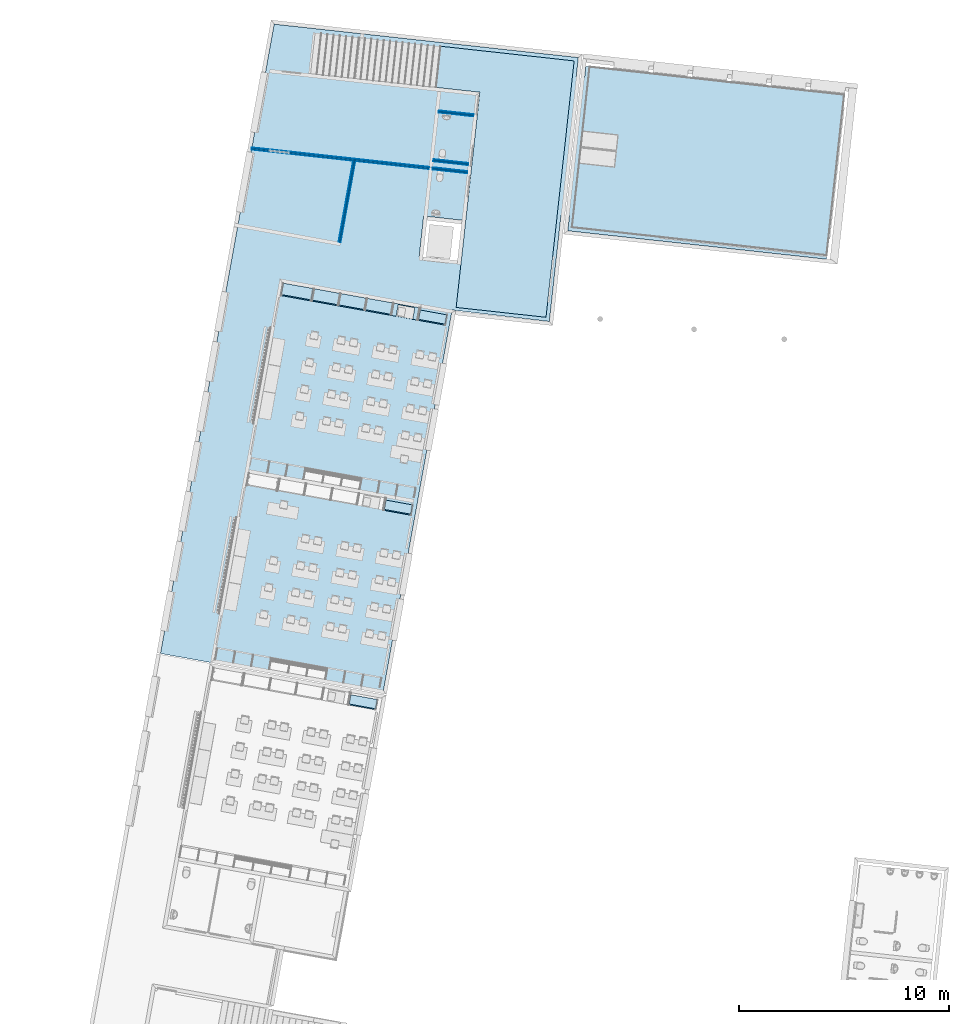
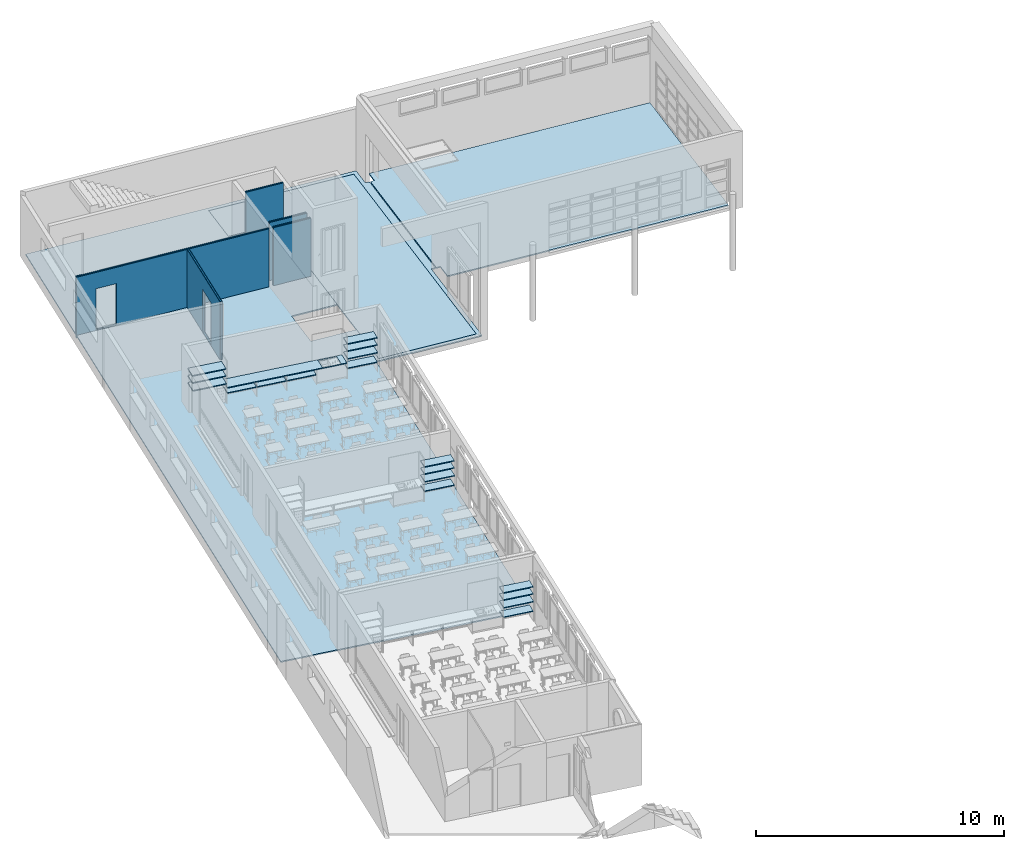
# One storey, part 2 of 79: 22 slabs, 15 building element parts, 4 openings, 5 elements without a shape of their own.
"""IFC2X3 building model written with IfcOpenShell, lengths in metres."""

from ifc_helpers import new_model, entity, si_unit, converted_unit, derived_unit, money_unit, direction, frame, origin_with_axes, origin_2d_with_axis, place, context, subcontext, project, spatial, polyline, rectangle, outline, extrude, material, layer, layer_set, layer_usage, type_object, element, aggregate, save


model = new_model("IFC2X3")

# Units and contexts
model_context = context("Model", 3, precision=1e-05, world=origin_with_axes(), true_north=direction((0.0, 1.0)))
body_context = subcontext(model_context, "Body", "Model", "MODEL_VIEW")
ifc_project = project(units=[si_unit("LENGTHUNIT", "METRE"), si_unit("AREAUNIT", "SQUARE_METRE"), si_unit("VOLUMEUNIT", "CUBIC_METRE"), converted_unit("PLANEANGLEUNIT", "DEGREE", entity("IfcPlaneAngleMeasure", 0.0174532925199), si_unit("PLANEANGLEUNIT", "RADIAN"), dimensions=[0, 0, 0, 0, 0, 0, 0]), money_unit("CHF"), converted_unit("TIMEUNIT", "Year", entity("IfcTimeMeasure", 31556926.0), si_unit("TIMEUNIT", "SECOND"), dimensions=[0, 0, 1, 0, 0, 0, 0]), si_unit("MASSUNIT", "GRAM", prefix="KILO"), si_unit("THERMODYNAMICTEMPERATUREUNIT", "DEGREE_CELSIUS"), si_unit("LUMINOUSINTENSITYUNIT", "LUMEN"), si_unit("ENERGYUNIT", "JOULE", prefix="MEGA"), derived_unit("THERMALCONDUCTANCEUNIT", [(si_unit("POWERUNIT", "WATT"), 1), (si_unit("LENGTHUNIT", "METRE"), -1), (si_unit("THERMODYNAMICTEMPERATUREUNIT", "KELVIN"), -1)]), derived_unit("SPECIFICHEATCAPACITYUNIT", [(si_unit("ENERGYUNIT", "JOULE"), 1), (si_unit("MASSUNIT", "GRAM", prefix="KILO"), -1), (si_unit("THERMODYNAMICTEMPERATUREUNIT", "KELVIN"), -1)]), derived_unit("MASSDENSITYUNIT", [(si_unit("MASSUNIT", "GRAM", prefix="KILO"), 1), (si_unit("VOLUMEUNIT", "CUBIC_METRE"), -1)])], contexts=[model_context])

# Site, building, storey
site_placement = place(None, frame((0.0, 0.0, 0.0), z_axis=(0.0, 0.0, 1.0), x_axis=(-0.177771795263, -0.984071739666, 0.0)))
site = spatial("IfcSite", under=ifc_project, at=site_placement, Name="Site", CompositionType="ELEMENT")
building_placement = place(site_placement, origin_with_axes())
building = spatial("IfcBuilding", under=site, at=building_placement, Name="Bâtiment", CompositionType="ELEMENT")
storey_placement = place(building_placement, origin_with_axes())
storey = spatial("IfcBuildingStorey", under=building, at=storey_placement, Name="RDC", CompositionType="ELEMENT", Elevation=0.0)

# Slabs
ifc_material_1 = material(Name="_Bois contreplaqué")
ifc_layer_1 = layer(ifc_material_1, 0.04, ventilated="UNKNOWN")
ifc_layer_set_1 = layer_set([ifc_layer_1], Name="_Bois contreplaqué 0.04")
ifc_layer_usage_1 = layer_usage(ifc_layer_set_1, "AXIS3", "NEGATIVE", 0.04)
slab_type_1 = type_object("IfcSlabType", Name="_Bois contreplaqué 40", PredefinedType="FLOOR")
slab_1_placement = place(storey_placement, frame((110.104841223, -154.978151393, 1.7), z_axis=(0.0, 0.0, 1.0), x_axis=(1.0, 0.0, 0.0)))
element("IfcSlab", 1, at=slab_1_placement, inside=storey, type_object=slab_type_1, material=ifc_layer_usage_1, Name="tablette fd classe", PredefinedType="FLOOR", context=body_context, shape_type="SweptSolid", body=[
    extrude(outline(polyline([(0.0, 0.0), (0.0, -1.44000000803), (0.550000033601, -1.44000000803), (0.550000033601, 0.0), (0.0, 0.0)])), frame((0.0, 0.0, -0.04), z_axis=(0.0, 0.0, 1.0), x_axis=(1.0, 0.0, 0.0)), (0.0, 0.0, 1.0), 0.04),
])
ifc_layer_usage_2 = layer_usage(ifc_layer_set_1, "AXIS3", "NEGATIVE", 0.04)
slab_2_placement = place(storey_placement, frame((110.204841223, -148.506151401, 1.7), z_axis=(0.0, 0.0, 1.0), x_axis=(1.0, 0.0, 0.0)))
element("IfcSlab", 2, at=slab_2_placement, inside=storey, type_object=slab_type_1, material=ifc_layer_usage_2, Name="tablette fd classe", PredefinedType="FLOOR", context=body_context, shape_type="SweptSolid", body=[
    extrude(outline(polyline([(0.0, 0.0), (0.0, -1.28), (0.450000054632, -1.28), (0.450000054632, 0.0), (0.0, 0.0)])), frame((0.0, 0.0, -0.04), z_axis=(0.0, 0.0, 1.0), x_axis=(1.0, 0.0, 0.0)), (0.0, 0.0, 1.0), 0.04),
])
ifc_layer_usage_3 = layer_usage(ifc_layer_set_1, "AXIS3", "NEGATIVE", 0.04)
slab_3_placement = place(storey_placement, frame((110.204841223, -148.506151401, 1.35), z_axis=(0.0, 0.0, 1.0), x_axis=(1.0, 0.0, 0.0)))
element("IfcSlab", 3, at=slab_3_placement, inside=storey, type_object=slab_type_1, material=ifc_layer_usage_3, Name="tablette fd classe", PredefinedType="FLOOR", context=body_context, shape_type="SweptSolid", body=[
    extrude(outline(polyline([(0.0, 0.0), (0.0, -1.28), (0.450000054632, -1.28), (0.450000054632, 0.0), (0.0, 0.0)])), frame((0.0, 0.0, -0.04), z_axis=(0.0, 0.0, 1.0), x_axis=(1.0, 0.0, 0.0)), (0.0, 0.0, 1.0), 0.04),
])
ifc_layer_usage_4 = layer_usage(ifc_layer_set_1, "AXIS3", "NEGATIVE", 0.04)
slab_4_placement = place(storey_placement, frame((110.204841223, -148.506151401, 0.5), z_axis=(0.0, 0.0, 1.0), x_axis=(1.0, 0.0, 0.0)))
element("IfcSlab", 4, at=slab_4_placement, inside=storey, type_object=slab_type_1, material=ifc_layer_usage_4, Name="tablette fd classe", PredefinedType="FLOOR", context=body_context, shape_type="SweptSolid", body=[
    extrude(outline(polyline([(0.0, 0.0), (0.0, -1.28), (0.450000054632, -1.28), (0.450000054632, 0.0), (0.0, 0.0)])), frame((0.0, 0.0, -0.04), z_axis=(0.0, 0.0, 1.0), x_axis=(1.0, 0.0, 0.0)), (0.0, 0.0, 1.0), 0.04),
])
ifc_layer_usage_5 = layer_usage(ifc_layer_set_1, "AXIS3", "NEGATIVE", 0.04)
slab_5_placement = place(storey_placement, frame((110.104841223, -154.978151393, 1.35), z_axis=(0.0, 0.0, 1.0), x_axis=(1.0, 0.0, 0.0)))
element("IfcSlab", 5, at=slab_5_placement, inside=storey, type_object=slab_type_1, material=ifc_layer_usage_5, Name="tablette fd classe", PredefinedType="FLOOR", context=body_context, shape_type="SweptSolid", body=[
    extrude(outline(polyline([(0.0, 0.0), (0.0, -1.44000000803), (0.550000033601, -1.44000000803), (0.550000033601, 0.0), (0.0, 0.0)])), frame((0.0, 0.0, -0.04), z_axis=(0.0, 0.0, 1.0), x_axis=(1.0, 0.0, 0.0)), (0.0, 0.0, 1.0), 0.04),
])
ifc_layer_usage_6 = layer_usage(ifc_layer_set_1, "AXIS3", "NEGATIVE", 0.04)
slab_6_placement = place(storey_placement, frame((110.204841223, -148.506151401, 1.0), z_axis=(0.0, 0.0, 1.0), x_axis=(1.0, 0.0, 0.0)))
element("IfcSlab", 6, at=slab_6_placement, inside=storey, type_object=slab_type_1, material=ifc_layer_usage_6, Name="tablette fd classe fx", PredefinedType="FLOOR", context=body_context, shape_type="SweptSolid", body=[
    extrude(outline(polyline([(0.0, 0.0), (0.0, -1.28), (0.500000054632, -1.28), (0.500000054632, 0.0), (0.0, 0.0)])), frame((0.0, 0.0, -0.04), z_axis=(0.0, 0.0, 1.0), x_axis=(1.0, 0.0, 0.0)), (0.0, 0.0, 1.0), 0.04),
])
ifc_layer_usage_7 = layer_usage(ifc_layer_set_1, "AXIS3", "NEGATIVE", 0.04)
slab_7_placement = place(storey_placement, frame((110.104841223, -153.679193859, 0.5), z_axis=(0.0, 0.0, 1.0), x_axis=(1.0, 0.0, 0.0)))
element("IfcSlab", 7, at=slab_7_placement, inside=storey, type_object=slab_type_1, material=ifc_layer_usage_7, Name="tablette fd classe", PredefinedType="FLOOR", context=body_context, shape_type="SweptSolid", body=[
    extrude(outline(polyline([(0.0, 0.0), (0.0, -1.24004246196), (0.550000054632, -1.24004246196), (0.550000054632, 0.0), (0.0, 0.0)])), frame((0.0, 0.0, -0.04), z_axis=(0.0, 0.0, 1.0), x_axis=(1.0, 0.0, 0.0)), (0.0, 0.0, 1.0), 0.04),
])
ifc_layer_usage_8 = layer_usage(ifc_layer_set_1, "AXIS3", "NEGATIVE", 0.04)
slab_8_placement = place(storey_placement, frame((110.104841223, -154.978236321, 1.0), z_axis=(0.0, 0.0, 1.0), x_axis=(1.0, 0.0, 0.0)))
element("IfcSlab", 8, at=slab_8_placement, inside=storey, type_object=slab_type_1, material=ifc_layer_usage_8, Name="tablette fd classe fx", PredefinedType="FLOOR", context=body_context, shape_type="SweptSolid", body=[
    extrude(outline(polyline([(0.0, 0.0), (0.0, -1.43991508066), (0.600000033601, -1.43991508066), (0.600000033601, 0.0), (0.0, 0.0)])), frame((0.0, 0.0, -0.04), z_axis=(0.0, 0.0, 1.0), x_axis=(1.0, 0.0, 0.0)), (0.0, 0.0, 1.0), 0.04),
])
ifc_layer_usage_9 = layer_usage(ifc_layer_set_1, "AXIS3", "NEGATIVE", 0.04)
slab_9_placement = place(storey_placement, frame((110.104841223, -151.123151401, 0.5), z_axis=(0.0, 0.0, 1.0), x_axis=(1.0, 0.0, 0.0)))
element("IfcSlab", 9, at=slab_9_placement, inside=storey, type_object=slab_type_1, material=ifc_layer_usage_9, Name="tablette fd classe", PredefinedType="FLOOR", context=body_context, shape_type="SweptSolid", body=[
    extrude(outline(polyline([(0.0, 0.0), (0.0, -1.24004246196), (0.550000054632, -1.24004246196), (0.550000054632, 0.0), (0.0, 0.0)])), frame((0.0, 0.0, -0.04), z_axis=(0.0, 0.0, 1.0), x_axis=(1.0, 0.0, 0.0)), (0.0, 0.0, 1.0), 0.04),
])
ifc_layer_usage_10 = layer_usage(ifc_layer_set_1, "AXIS3", "NEGATIVE", 0.04)
slab_10_placement = place(storey_placement, frame((110.104841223, -152.401193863, 0.5), z_axis=(0.0, 0.0, 1.0), x_axis=(1.0, 0.0, 0.0)))
element("IfcSlab", 10, at=slab_10_placement, inside=storey, type_object=slab_type_1, material=ifc_layer_usage_10, Name="tablette fd classe", PredefinedType="FLOOR", context=body_context, shape_type="SweptSolid", body=[
    extrude(outline(polyline([(0.0, 0.0), (0.0, -1.24004246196), (0.550000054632, -1.24004246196), (0.550000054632, 0.0), (0.0, 0.0)])), frame((0.0, 0.0, -0.04), z_axis=(0.0, 0.0, 1.0), x_axis=(1.0, 0.0, 0.0)), (0.0, 0.0, 1.0), 0.04),
])
ifc_layer_usage_11 = layer_usage(ifc_layer_set_1, "AXIS3", "NEGATIVE", 0.04)
slab_11_placement = place(storey_placement, frame((110.104841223, -154.938236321, 0.8), z_axis=(0.0, 0.0, 1.0), x_axis=(1.0, 0.0, 0.0)))
element("IfcSlab", 11, at=slab_11_placement, inside=storey, type_object=slab_type_1, material=ifc_layer_usage_11, Name="plan-travail classe", PredefinedType="FLOOR", context=body_context, shape_type="SweptSolid", body=[
    extrude(outline(polyline([(0.0, 0.0), (0.600000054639, 0.0), (0.600000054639, 5.11208491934), (0.0, 5.11208491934), (0.0, 0.0)]), holes=[polyline([(0.595000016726, 4.87308491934), (0.595000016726, 4.07308491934), (0.0450000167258, 4.07308491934), (0.0450000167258, 4.87308491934), (0.595000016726, 4.87308491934)])]), frame((0.0, 0.0, -0.04), z_axis=(0.0, 0.0, 1.0), x_axis=(1.0, 0.0, 0.0)), (0.0, 0.0, 1.0), 0.04),
])
ifc_layer_usage_12 = layer_usage(ifc_layer_set_1, "AXIS3", "NEGATIVE", 0.04)
slab_12_placement = place(storey_placement, frame((119.384841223, -148.506151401, 1.0), z_axis=(0.0, 0.0, 1.0), x_axis=(1.0, 0.0, 0.0)))
element("IfcSlab", 12, at=slab_12_placement, inside=storey, type_object=slab_type_1, material=ifc_layer_usage_12, Name="tablette fd classe fx", PredefinedType="FLOOR", context=body_context, shape_type="SweptSolid", body=[
    extrude(outline(polyline([(0.0, 0.0), (0.0, -1.28), (0.500000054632, -1.28), (0.500000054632, 0.0), (0.0, 0.0)])), frame((0.0, 0.0, -0.04), z_axis=(0.0, 0.0, 1.0), x_axis=(1.0, 0.0, 0.0)), (0.0, 0.0, 1.0), 0.04),
])
ifc_layer_usage_13 = layer_usage(ifc_layer_set_1, "AXIS3", "NEGATIVE", 0.04)
slab_13_placement = place(storey_placement, frame((119.384841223, -148.506151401, 1.35), z_axis=(0.0, 0.0, 1.0), x_axis=(1.0, 0.0, 0.0)))
element("IfcSlab", 13, at=slab_13_placement, inside=storey, type_object=slab_type_1, material=ifc_layer_usage_13, Name="tablette fd classe", PredefinedType="FLOOR", context=body_context, shape_type="SweptSolid", body=[
    extrude(outline(polyline([(0.0, 0.0), (0.0, -1.28), (0.450000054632, -1.28), (0.450000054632, 0.0), (0.0, 0.0)])), frame((0.0, 0.0, -0.04), z_axis=(0.0, 0.0, 1.0), x_axis=(1.0, 0.0, 0.0)), (0.0, 0.0, 1.0), 0.04),
])
ifc_layer_usage_14 = layer_usage(ifc_layer_set_1, "AXIS3", "NEGATIVE", 0.04)
slab_14_placement = place(storey_placement, frame((119.384841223, -148.506151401, 1.7), z_axis=(0.0, 0.0, 1.0), x_axis=(1.0, 0.0, 0.0)))
element("IfcSlab", 14, at=slab_14_placement, inside=storey, type_object=slab_type_1, material=ifc_layer_usage_14, Name="tablette fd classe", PredefinedType="FLOOR", context=body_context, shape_type="SweptSolid", body=[
    extrude(outline(polyline([(0.0, 0.0), (0.0, -1.28), (0.450000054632, -1.28), (0.450000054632, 0.0), (0.0, 0.0)])), frame((0.0, 0.0, -0.04), z_axis=(0.0, 0.0, 1.0), x_axis=(1.0, 0.0, 0.0)), (0.0, 0.0, 1.0), 0.04),
])
ifc_layer_usage_15 = layer_usage(ifc_layer_set_1, "AXIS3", "NEGATIVE", 0.04)
slab_15_placement = place(storey_placement, frame((119.384841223, -148.506151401, 0.5), z_axis=(0.0, 0.0, 1.0), x_axis=(1.0, 0.0, 0.0)))
element("IfcSlab", 15, at=slab_15_placement, inside=storey, type_object=slab_type_1, material=ifc_layer_usage_15, Name="tablette fd classe", PredefinedType="FLOOR", context=body_context, shape_type="SweptSolid", body=[
    extrude(outline(polyline([(0.0, 0.0), (0.0, -1.28), (0.450000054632, -1.28), (0.450000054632, 0.0), (0.0, 0.0)])), frame((0.0, 0.0, -0.04), z_axis=(0.0, 0.0, 1.0), x_axis=(1.0, 0.0, 0.0)), (0.0, 0.0, 1.0), 0.04),
])
ifc_layer_usage_16 = layer_usage(ifc_layer_set_1, "AXIS3", "NEGATIVE", 0.04)
slab_16_placement = place(storey_placement, frame((128.784841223, -148.506151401, 1.0), z_axis=(0.0, 0.0, 1.0), x_axis=(1.0, 0.0, 0.0)))
element("IfcSlab", 16, at=slab_16_placement, inside=storey, type_object=slab_type_1, material=ifc_layer_usage_16, Name="tablette fd classe fx", PredefinedType="FLOOR", context=body_context, shape_type="SweptSolid", body=[
    extrude(outline(polyline([(0.0, 0.0), (0.0, -1.28), (0.500000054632, -1.28), (0.500000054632, 0.0), (0.0, 0.0)])), frame((0.0, 0.0, -0.04), z_axis=(0.0, 0.0, 1.0), x_axis=(1.0, 0.0, 0.0)), (0.0, 0.0, 1.0), 0.04),
])
ifc_layer_usage_17 = layer_usage(ifc_layer_set_1, "AXIS3", "NEGATIVE", 0.04)
slab_17_placement = place(storey_placement, frame((128.784841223, -148.506151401, 1.35), z_axis=(0.0, 0.0, 1.0), x_axis=(1.0, 0.0, 0.0)))
element("IfcSlab", 17, at=slab_17_placement, inside=storey, type_object=slab_type_1, material=ifc_layer_usage_17, Name="tablette fd classe", PredefinedType="FLOOR", context=body_context, shape_type="SweptSolid", body=[
    extrude(outline(polyline([(0.0, 0.0), (0.0, -1.28), (0.450000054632, -1.28), (0.450000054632, 0.0), (0.0, 0.0)])), frame((0.0, 0.0, -0.04), z_axis=(0.0, 0.0, 1.0), x_axis=(1.0, 0.0, 0.0)), (0.0, 0.0, 1.0), 0.04),
])
ifc_layer_usage_18 = layer_usage(ifc_layer_set_1, "AXIS3", "NEGATIVE", 0.04)
slab_18_placement = place(storey_placement, frame((128.784841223, -148.506151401, 1.7), z_axis=(0.0, 0.0, 1.0), x_axis=(1.0, 0.0, 0.0)))
element("IfcSlab", 18, at=slab_18_placement, inside=storey, type_object=slab_type_1, material=ifc_layer_usage_18, Name="tablette fd classe", PredefinedType="FLOOR", context=body_context, shape_type="SweptSolid", body=[
    extrude(outline(polyline([(0.0, 0.0), (0.0, -1.28), (0.450000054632, -1.28), (0.450000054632, 0.0), (0.0, 0.0)])), frame((0.0, 0.0, -0.04), z_axis=(0.0, 0.0, 1.0), x_axis=(1.0, 0.0, 0.0)), (0.0, 0.0, 1.0), 0.04),
])
ifc_layer_usage_19 = layer_usage(ifc_layer_set_1, "AXIS3", "NEGATIVE", 0.04)
slab_19_placement = place(storey_placement, frame((128.784841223, -148.506151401, 0.5), z_axis=(0.0, 0.0, 1.0), x_axis=(1.0, 0.0, 0.0)))
element("IfcSlab", 19, at=slab_19_placement, inside=storey, type_object=slab_type_1, material=ifc_layer_usage_19, Name="tablette fd classe", PredefinedType="FLOOR", context=body_context, shape_type="SweptSolid", body=[
    extrude(outline(polyline([(0.0, 0.0), (0.0, -1.28), (0.450000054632, -1.28), (0.450000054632, 0.0), (0.0, 0.0)])), frame((0.0, 0.0, -0.04), z_axis=(0.0, 0.0, 1.0), x_axis=(1.0, 0.0, 0.0)), (0.0, 0.0, 1.0), 0.04),
])
ifc_material_2 = material(Name="_Chape")
ifc_layer_2 = layer(ifc_material_2, 0.06, ventilated="UNKNOWN")
ifc_layer_set_2 = layer_set([ifc_layer_2], Name="_Chape 0.06")
ifc_layer_usage_20 = layer_usage(ifc_layer_set_2, "AXIS3", "NEGATIVE", 0.06)
slab_type_2 = type_object("IfcSlabType", Name="_Chappe isol  15 150", PredefinedType="FLOOR")
slab_20_placement = place(storey_placement, frame((104.397447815, -131.229831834, 0.0), z_axis=(0.0, 0.0, 1.0), x_axis=(1.0, 0.0, 0.0)))
element("IfcSlab", 20, at=slab_20_placement, inside=storey, type_object=slab_type_2, material=ifc_layer_usage_20, Name="chappe-RDC", PredefinedType="FLOOR", context=body_context, shape_type="SweptSolid", body=[
    extrude(outline(polyline([(0.0, 0.0), (-7.84009094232, -0.544343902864), (-6.98507144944, -12.8742029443), (-6.44633462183, -12.8368440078), (-6.43388235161, -13.0164127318), (0.150266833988, -12.5592699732), (0.137799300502, -12.379702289), (0.856070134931, -12.3298321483), (0.0, 0.0)])), frame((0.0, 0.0, -0.06), z_axis=(0.0, 0.0, 1.0), x_axis=(1.0, 0.0, 0.0)), (0.0, 0.0, 1.0), 0.06),
])
ifc_layer_usage_21 = layer_usage(ifc_layer_set_2, "AXIS3", "NEGATIVE", 0.06)
slab_21_placement = place(storey_placement, frame((97.0610130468, -144.529439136, 0.0), z_axis=(0.0, 0.0, 1.0), x_axis=(1.0, 0.0, 0.0)))
element("IfcSlab", 21, at=slab_21_placement, inside=storey, type_object=slab_type_2, material=ifc_layer_usage_21, Name="chappe-RDC", PredefinedType="FLOOR", context=body_context, shape_type="SweptSolid", body=[
    extrude(outline(polyline([(0.0, 0.0), (1.00727899, -14.5076679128), (31.4038281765, -14.5076679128), (31.4038281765, -3.7677122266), (12.8638281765, -3.76771232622), (12.8638281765, -3.58771226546), (12.5891177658, 0.874072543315), (7.50192564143, 0.520884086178), (7.48947216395, 0.70043339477), (0.905322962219, 0.243290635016), (0.916978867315, 0.0636665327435), (0.0, 0.0)]), holes=[polyline([(0.192034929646, -0.167100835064), (12.4220172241, 0.682037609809), (12.7195092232, -3.6026840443), (10.6846101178, -3.74396872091), (10.5050422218, -3.75643552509), (10.6442603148, -5.76160891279), (8.71889543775, -5.89528594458), (8.57967742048, -3.89011364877), (2.45479677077, -4.31537126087), (2.59955299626, -6.40029489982), (0.634284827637, -6.53674344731), (0.192034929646, -0.167100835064)])]), frame((0.0, 0.0, -0.06), z_axis=(0.0, 0.0, 1.0), x_axis=(1.0, 0.0, 0.0)), (0.0, 0.0, 1.0), 0.06),
])
ifc_layer_usage_22 = layer_usage(ifc_layer_set_2, "AXIS3", "NEGATIVE", 0.06)
slab_22_placement = place(storey_placement, frame((97.2530482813, -144.696539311, 0.0), z_axis=(0.0, 0.0, 1.0), x_axis=(1.0, 0.0, 0.0)))
element("IfcSlab", 22, at=slab_22_placement, inside=storey, type_object=slab_type_2, material=ifc_layer_usage_22, Name="Chappe-Hall-ascens-RDC", PredefinedType="FLOOR", context=body_context, shape_type="SweptSolid", body=[
    extrude(outline(polyline([(0.0, 0.0), (0.442249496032, -6.36964406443), (2.40751939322, -6.2331937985), (2.26276153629, -4.14827108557), (12.5274739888, -3.43558386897), (12.2299823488, 0.849137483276), (0.0, 0.0)])), frame((0.0, 0.0, -0.06), z_axis=(0.0, 0.0, 1.0), x_axis=(1.0, 0.0, 0.0)), (0.0, 0.0, 1.0), 0.06),
])

# Proxy, building element parts
building_element_proxy_type = type_object("IfcBuildingElementProxyType", Name="_Cloison 10cm 100", PredefinedType="NOTDEFINED")
proxy_1_placement = place(storey_placement, frame((103.533193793, -150.400279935, -0.15), z_axis=(0.0, 0.0, 1.0), x_axis=(-0.0692627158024, 0.997598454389, 0.0)))
proxy_1 = element("IfcBuildingElementProxy", 23, at=proxy_1_placement, inside=storey, type_object=building_element_proxy_type, Name="cloisons-suppr")
ifc_material_3 = material(Name="_Fini placo poché 590")
building_element_part_1_placement = place(proxy_1_placement, origin_with_axes())
building_element_part_1 = element("IfcBuildingElementPart", 24, at=building_element_part_1_placement, material=ifc_material_3, Name="_Fini placo poché 590", context=body_context, shape_type="SweptSolid", body=[
    extrude(outline(polyline([(0.0, 0.08), (1.64998917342, 0.08), (1.64998917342, 0.1), (0.0, 0.1), (0.0, 0.08)])), origin_with_axes(), (0.0, 0.0, 1.0), 3.0),
])
ifc_material_4 = material(Name="_Cloison armature 300")
building_element_part_2_placement = place(proxy_1_placement, origin_with_axes())
building_element_part_2 = element("IfcBuildingElementPart", 25, at=building_element_part_2_placement, material=ifc_material_4, Name="_Cloison armature 300", context=body_context, shape_type="SweptSolid", body=[
    extrude(outline(polyline([(0.0, 0.02), (1.64998917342, 0.02), (1.64998917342, 0.08), (0.0, 0.08), (0.0, 0.02)])), origin_with_axes(), (0.0, 0.0, 1.0), 3.0),
])
building_element_part_3_placement = place(proxy_1_placement, origin_with_axes())
building_element_part_3 = element("IfcBuildingElementPart", 26, at=building_element_part_3_placement, material=ifc_material_3, Name="_Fini placo poché 590", context=body_context, shape_type="SweptSolid", body=[
    extrude(outline(polyline([(0.0, 0.0), (1.64998917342, 0.0), (1.64998917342, 0.02), (0.0, 0.02), (0.0, 0.0)])), origin_with_axes(), (0.0, 0.0, 1.0), 3.0),
])
aggregate(proxy_1, [building_element_part_1, building_element_part_2, building_element_part_3])

# Proxy, opening, building element parts
proxy_2_placement = place(storey_placement, frame((107.704841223, -154.082674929, -0.15), z_axis=(0.0, 0.0, 1.0), x_axis=(-1.0, 0.0, 0.0)))
proxy_2 = element("IfcBuildingElementProxy", 27, at=proxy_2_placement, inside=storey, type_object=building_element_proxy_type, Name="cloisons-suppr")
opening_1_placement = place(proxy_2_placement, frame((1.56126884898, 0.0, 0.15), z_axis=(0.0, 0.0, 1.0), x_axis=(1.0, 0.0, 0.0)))
element("IfcOpeningElement", 28, at=opening_1_placement, cuts=proxy_2, context=body_context, shape_type="SweptSolid", body=[
    extrude(rectangle(XDim=1.0, YDim=2.1, at=origin_2d_with_axis()), frame((0.0, 0.1, 1.05), z_axis=(0.0, -1.0, 0.0), x_axis=(1.0, 0.0, 0.0)), (0.0, 0.0, -1.0), 0.1),
    extrude(rectangle(XDim=1.0, YDim=2.1, at=origin_2d_with_axis()), frame((0.0, 0.1, 1.05), z_axis=(0.0, 1.0, 0.0), x_axis=(1.0, 0.0, 0.0)), (0.0, 0.0, -1.0), 0.1),
])
building_element_part_4_placement = place(proxy_2_placement, origin_with_axes())
building_element_part_4 = element("IfcBuildingElementPart", 29, at=building_element_part_4_placement, material=ifc_material_3, Name="_Fini placo poché 590", context=body_context, shape_type="SweptSolid", body=[
    extrude(outline(polyline([(0.0, 0.08), (3.91042640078, 0.08), (3.90903781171, 0.1), (0.0, 0.1), (0.0, 0.08)])), origin_with_axes(), (0.0, 0.0, 1.0), 3.0),
])
building_element_part_5_placement = place(proxy_2_placement, origin_with_axes())
building_element_part_5 = element("IfcBuildingElementPart", 30, at=building_element_part_5_placement, material=ifc_material_4, Name="_Cloison armature 300", context=body_context, shape_type="SweptSolid", body=[
    extrude(outline(polyline([(0.0, 0.02), (3.91459216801, 0.02), (3.91042640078, 0.08), (0.0, 0.08), (0.0, 0.02)])), origin_with_axes(), (0.0, 0.0, 1.0), 3.0),
])
building_element_part_6_placement = place(proxy_2_placement, origin_with_axes())
building_element_part_6 = element("IfcBuildingElementPart", 31, at=building_element_part_6_placement, material=ifc_material_3, Name="_Fini placo poché 590", context=body_context, shape_type="SweptSolid", body=[
    extrude(outline(polyline([(0.0, 0.0), (3.91598075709, 0.0), (3.91459216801, 0.02), (0.0, 0.02), (0.0, 0.0)])), origin_with_axes(), (0.0, 0.0, 1.0), 3.0),
])
aggregate(proxy_2, [building_element_part_4, building_element_part_5, building_element_part_6])

proxy_3_placement = place(storey_placement, frame((104.132743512, -159.035659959, -0.15), z_axis=(0.0, 0.0, 1.0), x_axis=(-0.0692627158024, 0.997598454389, 0.0)))
proxy_3 = element("IfcBuildingElementProxy", 32, at=proxy_3_placement, inside=storey, type_object=building_element_proxy_type, Name="cloisons-suppr")
opening_2_placement = place(proxy_3_placement, frame((1.31053865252, 0.0, 0.15), z_axis=(0.0, 0.0, 1.0), x_axis=(1.0, 0.0, 0.0)))
element("IfcOpeningElement", 33, at=opening_2_placement, cuts=proxy_3, context=body_context, shape_type="SweptSolid", body=[
    extrude(rectangle(XDim=0.9, YDim=2.05, at=origin_2d_with_axis()), frame((0.0, 0.1, 1.025), z_axis=(0.0, -1.0, 0.0), x_axis=(1.0, 0.0, 0.0)), (0.0, 0.0, -1.0), 0.1),
    extrude(rectangle(XDim=0.9, YDim=2.05, at=origin_2d_with_axis()), frame((0.0, 0.1, 1.025), z_axis=(0.0, 1.0, 0.0), x_axis=(1.0, 0.0, 0.0)), (0.0, 0.0, -1.0), 0.1),
])
building_element_part_7_placement = place(proxy_3_placement, origin_with_axes())
building_element_part_7 = element("IfcBuildingElementPart", 34, at=building_element_part_7_placement, material=ifc_material_3, Name="_Fini placo poché 590", context=body_context, shape_type="SweptSolid", body=[
    extrude(outline(polyline([(0.0, 0.08), (8.47616820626, 0.08), (8.47616820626, 0.1), (0.0, 0.1), (0.0, 0.08)])), origin_with_axes(), (0.0, 0.0, 1.0), 3.0),
])
building_element_part_8_placement = place(proxy_3_placement, origin_with_axes())
building_element_part_8 = element("IfcBuildingElementPart", 35, at=building_element_part_8_placement, material=ifc_material_4, Name="_Cloison armature 300", context=body_context, shape_type="SweptSolid", body=[
    extrude(outline(polyline([(0.0, 0.02), (8.47616820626, 0.02), (8.47616820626, 0.08), (0.0, 0.08), (0.0, 0.02)])), origin_with_axes(), (0.0, 0.0, 1.0), 3.0),
])
building_element_part_9_placement = place(proxy_3_placement, origin_with_axes())
building_element_part_9 = element("IfcBuildingElementPart", 36, at=building_element_part_9_placement, material=ifc_material_3, Name="_Fini placo poché 590", context=body_context, shape_type="SweptSolid", body=[
    extrude(outline(polyline([(0.0, 0.0), (8.47616820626, 0.0), (8.47616820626, 0.02), (0.0, 0.02), (0.0, 0.0)])), origin_with_axes(), (0.0, 0.0, 1.0), 3.0),
])
aggregate(proxy_3, [building_element_part_7, building_element_part_8, building_element_part_9])

proxy_4_placement = place(storey_placement, frame((100.818911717, -150.588731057, -0.15), z_axis=(0.0, 0.0, 1.0), x_axis=(-0.0692627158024, 0.997598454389, 0.0)))
proxy_4 = element("IfcBuildingElementProxy", 37, at=proxy_4_placement, inside=storey, type_object=building_element_proxy_type, Name="cloisons-suppr")
opening_3_placement = place(proxy_4_placement, frame((-7.34562955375, 0.0, 0.15), z_axis=(0.0, 0.0, 1.0), x_axis=(1.0, 0.0, 0.0)))
element("IfcOpeningElement", 38, at=opening_3_placement, cuts=proxy_4, context=body_context, shape_type="SweptSolid", body=[
    extrude(rectangle(XDim=0.9, YDim=2.05, at=origin_2d_with_axis()), frame((0.0, 0.1, 1.025), z_axis=(0.0, -1.0, 0.0), x_axis=(1.0, 0.0, 0.0)), (0.0, 0.0, -1.0), 0.1),
    extrude(rectangle(XDim=0.9, YDim=2.05, at=origin_2d_with_axis()), frame((0.0, 0.1, 1.025), z_axis=(0.0, 1.0, 0.0), x_axis=(1.0, 0.0, 0.0)), (0.0, 0.0, -1.0), 0.1),
])
building_element_part_10_placement = place(proxy_4_placement, origin_with_axes())
building_element_part_10 = element("IfcBuildingElementPart", 39, at=building_element_part_10_placement, material=ifc_material_3, Name="_Fini placo poché 590", context=body_context, shape_type="SweptSolid", body=[
    extrude(outline(polyline([(0.0, 0.08), (1.64998917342, 0.08), (1.64998917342, 0.1), (0.0, 0.1), (0.0, 0.08)])), origin_with_axes(), (0.0, 0.0, 1.0), 3.0),
])
building_element_part_11_placement = place(proxy_4_placement, origin_with_axes())
building_element_part_11 = element("IfcBuildingElementPart", 40, at=building_element_part_11_placement, material=ifc_material_4, Name="_Cloison armature 300", context=body_context, shape_type="SweptSolid", body=[
    extrude(outline(polyline([(0.0, 0.02), (1.64998917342, 0.02), (1.64998917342, 0.08), (0.0, 0.08), (0.0, 0.02)])), origin_with_axes(), (0.0, 0.0, 1.0), 3.0),
])
building_element_part_12_placement = place(proxy_4_placement, origin_with_axes())
building_element_part_12 = element("IfcBuildingElementPart", 41, at=building_element_part_12_placement, material=ifc_material_3, Name="_Fini placo poché 590", context=body_context, shape_type="SweptSolid", body=[
    extrude(outline(polyline([(0.0, 0.0), (1.64998917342, 0.0), (1.64998917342, 0.02), (0.0, 0.02), (0.0, 0.0)])), origin_with_axes(), (0.0, 0.0, 1.0), 3.0),
])
aggregate(proxy_4, [building_element_part_10, building_element_part_11, building_element_part_12])

proxy_5_placement = place(storey_placement, frame((103.044044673, -150.434241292, -0.15), z_axis=(0.0, 0.0, 1.0), x_axis=(-0.0692627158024, 0.997598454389, 0.0)))
proxy_5 = element("IfcBuildingElementProxy", 42, at=proxy_5_placement, inside=storey, type_object=building_element_proxy_type, Name="cloisons-suppr")
opening_4_placement = place(proxy_5_placement, frame((-7.34562955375, 0.0, 0.15), z_axis=(0.0, 0.0, 1.0), x_axis=(1.0, 0.0, 0.0)))
element("IfcOpeningElement", 43, at=opening_4_placement, cuts=proxy_5, context=body_context, shape_type="SweptSolid", body=[
    extrude(rectangle(XDim=0.9, YDim=2.05, at=origin_2d_with_axis()), frame((0.0, -0.1, 1.025), z_axis=(0.0, 1.0, 0.0), x_axis=(1.0, 0.0, 0.0)), (0.0, 0.0, -1.0), 0.1),
    extrude(rectangle(XDim=0.9, YDim=2.05, at=origin_2d_with_axis()), frame((0.0, -0.1, 1.025), z_axis=(0.0, -1.0, 0.0), x_axis=(1.0, 0.0, 0.0)), (0.0, 0.0, -1.0), 0.1),
])
building_element_part_13_placement = place(proxy_5_placement, origin_with_axes())
building_element_part_13 = element("IfcBuildingElementPart", 44, at=building_element_part_13_placement, material=ifc_material_3, Name="_Fini placo poché 590", context=body_context, shape_type="SweptSolid", body=[
    extrude(outline(polyline([(0.0, -0.1), (1.64998917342, -0.1), (1.64998917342, -0.08), (0.0, -0.08), (0.0, -0.1)])), origin_with_axes(), (0.0, 0.0, 1.0), 3.0),
])
building_element_part_14_placement = place(proxy_5_placement, origin_with_axes())
building_element_part_14 = element("IfcBuildingElementPart", 45, at=building_element_part_14_placement, material=ifc_material_4, Name="_Cloison armature 300", context=body_context, shape_type="SweptSolid", body=[
    extrude(outline(polyline([(0.0, -0.08), (1.64998917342, -0.08), (1.64998917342, -0.02), (0.0, -0.02), (0.0, -0.08)])), origin_with_axes(), (0.0, 0.0, 1.0), 3.0),
])
building_element_part_15_placement = place(proxy_5_placement, origin_with_axes())
building_element_part_15 = element("IfcBuildingElementPart", 46, at=building_element_part_15_placement, material=ifc_material_3, Name="_Fini placo poché 590", context=body_context, shape_type="SweptSolid", body=[
    extrude(outline(polyline([(0.0, -0.02), (1.64998917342, -0.02), (1.64998917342, 0.0), (0.0, 0.0), (0.0, -0.02)])), origin_with_axes(), (0.0, 0.0, 1.0), 3.0),
])
aggregate(proxy_5, [building_element_part_13, building_element_part_14, building_element_part_15])

save(model, "model.ifc")
